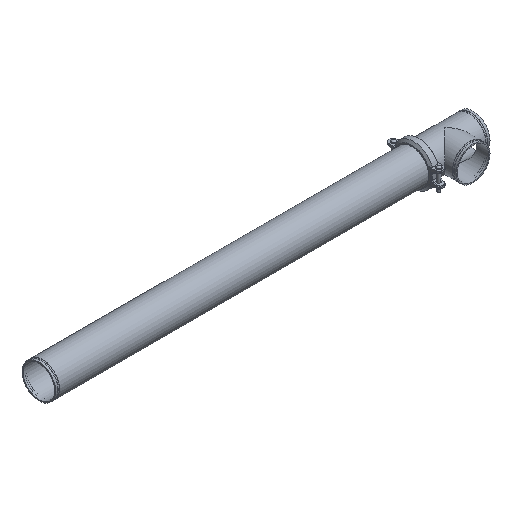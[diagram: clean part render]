
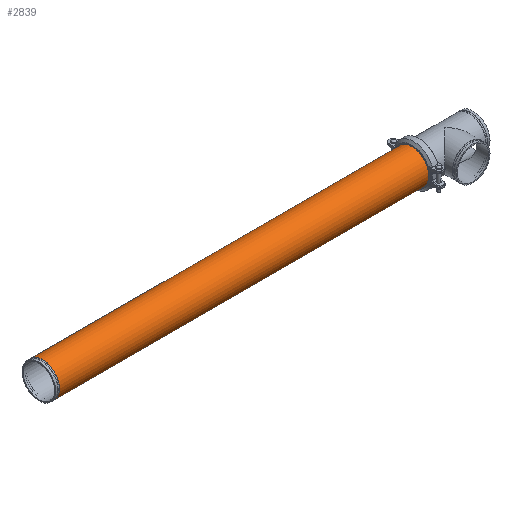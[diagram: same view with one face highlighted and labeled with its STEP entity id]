
A CAD part, isometric view. The second image highlights one B-rep face of the part: STEP entity #2839.
In plain terms, the highlighted cylindrical face has radius 136.525 mm (diameter 273.05 mm), a full revolution.
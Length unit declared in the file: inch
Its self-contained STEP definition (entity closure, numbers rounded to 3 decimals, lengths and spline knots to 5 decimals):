
#353=FACE_OUTER_BOUND('',#530,.T.);
#530=EDGE_LOOP('',(#2436,#2437,#2438,#2439,#2440,#2441));
#719=LINE('',#5539,#900);
#900=VECTOR('',#4070,5.375);
#1033=CIRCLE('',#3248,5.375);
#1034=CIRCLE('',#3249,5.375);
#1035=CIRCLE('',#3251,5.375);
#1036=CIRCLE('',#3252,5.375);
#1297=VERTEX_POINT('',#5530);
#1298=VERTEX_POINT('',#5531);
#1299=VERTEX_POINT('',#5535);
#1300=VERTEX_POINT('',#5536);
#1681=EDGE_CURVE('',#1297,#1298,#1033,.T.);
#1682=EDGE_CURVE('',#1298,#1297,#1034,.T.);
#1683=EDGE_CURVE('',#1299,#1300,#1035,.T.);
#1684=EDGE_CURVE('',#1300,#1299,#1036,.T.);
#1685=EDGE_CURVE('',#1300,#1298,#719,.T.);
#2436=ORIENTED_EDGE('',*,*,#1683,.F.);
#2437=ORIENTED_EDGE('',*,*,#1684,.F.);
#2438=ORIENTED_EDGE('',*,*,#1685,.T.);
#2439=ORIENTED_EDGE('',*,*,#1682,.T.);
#2440=ORIENTED_EDGE('',*,*,#1681,.T.);
#2441=ORIENTED_EDGE('',*,*,#1685,.F.);
#2540=CYLINDRICAL_SURFACE('',#3250,5.375);
#2839=ADVANCED_FACE('',(#353),#2540,.T.);
#3248=AXIS2_PLACEMENT_3D('',#5532,#4060,#4061);
#3249=AXIS2_PLACEMENT_3D('',#5533,#4062,#4063);
#3250=AXIS2_PLACEMENT_3D('',#5534,#4064,#4065);
#3251=AXIS2_PLACEMENT_3D('',#5537,#4066,#4067);
#3252=AXIS2_PLACEMENT_3D('',#5538,#4068,#4069);
#4060=DIRECTION('center_axis',(1.,0.,0.));
#4061=DIRECTION('ref_axis',(0.,0.,-1.));
#4062=DIRECTION('center_axis',(1.,0.,0.));
#4063=DIRECTION('ref_axis',(0.,0.,-1.));
#4064=DIRECTION('center_axis',(1.,0.,0.));
#4065=DIRECTION('ref_axis',(0.,1.,0.));
#4066=DIRECTION('center_axis',(1.,0.,0.));
#4067=DIRECTION('ref_axis',(0.,0.,-1.));
#4068=DIRECTION('center_axis',(1.,0.,0.));
#4069=DIRECTION('ref_axis',(0.,0.,-1.));
#4070=DIRECTION('',(-1.,0.,0.));
#5530=CARTESIAN_POINT('',(-58.781,5.375,0.));
#5531=CARTESIAN_POINT('',(-58.781,-5.375,0.));
#5532=CARTESIAN_POINT('Origin',(-58.781,0.,0.));
#5533=CARTESIAN_POINT('Origin',(-58.781,0.,0.));
#5534=CARTESIAN_POINT('Origin',(0.,0.,0.));
#5535=CARTESIAN_POINT('',(58.781,5.375,0.));
#5536=CARTESIAN_POINT('',(58.781,-5.375,0.));
#5537=CARTESIAN_POINT('Origin',(58.781,0.,0.));
#5538=CARTESIAN_POINT('Origin',(58.781,0.,0.));
#5539=CARTESIAN_POINT('',(0.,-5.375,0.));
